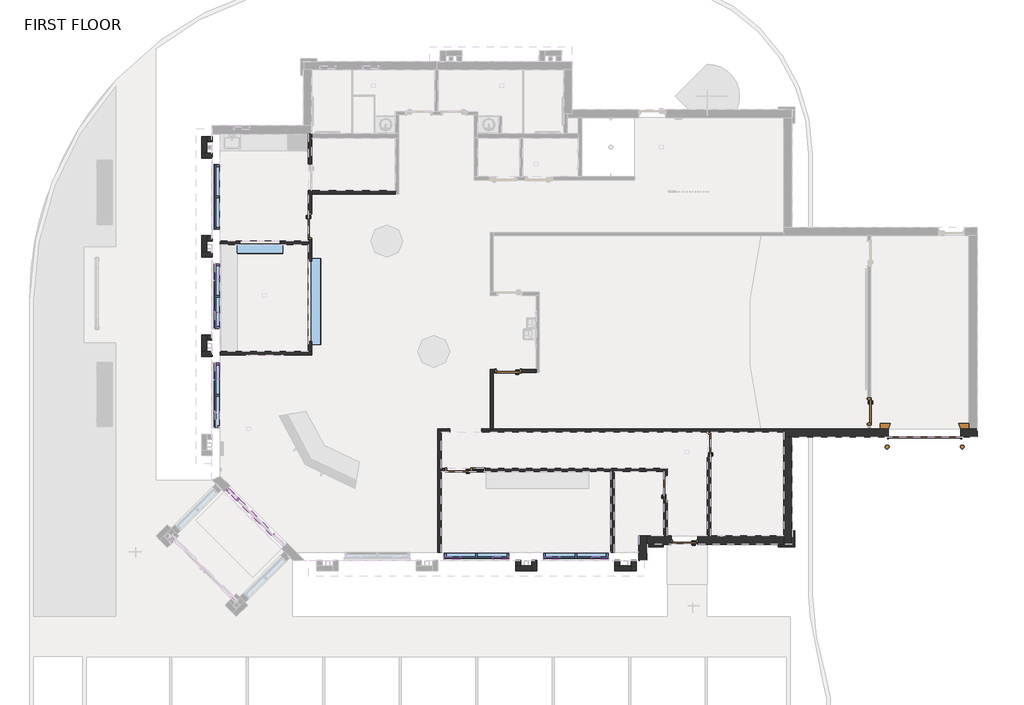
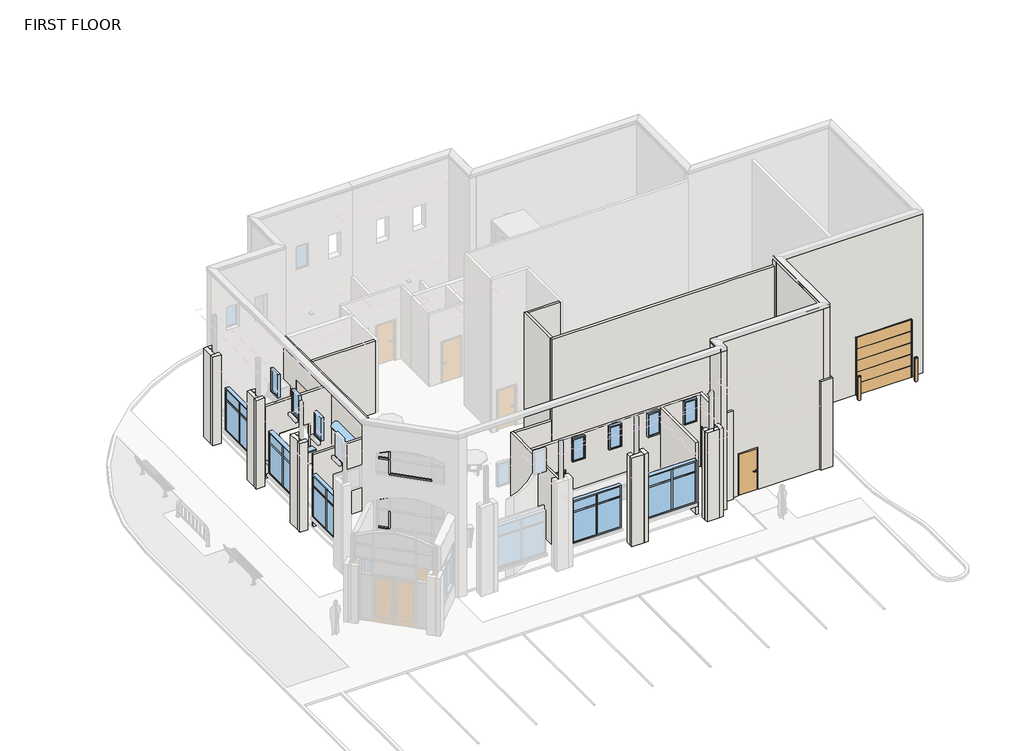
# One storey, part 3 of 7: 35 walls, 14 windows, 8 doors, 8 members.
"""IFC4 building model written with IfcOpenShell, lengths in millimetres."""

from ifc_helpers import new_model, si_unit, frame, origin, place, context, project, spatial, polyline, outline, extrude, faceted_brep, transform, mapped, element, save
from components import hm_frame_door_interior_single_4ead148d, hm_frame_door_interior_single_41877bdb, hm_frame_door_interior_single_with_sidelite_831faa12, door_ae087dad, sectional_overhead_dock_door_and_seal_3876_cbcbc84f, member_1df11e17, member_ca079636, member_016b66e3, member_3a04f99e, member_58a4a87b, member_93b63755, aluminum_exterior_window_single_3885_e2dbf674, pass_through_counter_4719_pass_through_counter_4719_2_ca190591, pass_through_counter_4719_pass_through_counter_short_b2f492ed, storefront_window_28fc684a

model = new_model("IFC4")

# Units and contexts
model_context = context("Model", 3, world=origin())
ifc_project = project(units=[si_unit("LENGTHUNIT", "METRE", prefix="MILLI")], contexts=[model_context])

# Site, building, storey
site = spatial("IfcSite", under=ifc_project)
building = spatial("IfcBuilding", under=site)
storey = spatial("IfcBuildingStorey", under=building, Name="FIRST FLOOR", Elevation=30480.0)

# Doors
placement = place(None, origin())
hm_frame_door_interior_single_shape = hm_frame_door_interior_single_4ead148d(model_context)
element("IfcDoor", 1, ObjectType="HM Frame Door - Interior Single : 36\" x 84\" x 5.75\" WD Door", at=placement, inside=storey, context=model_context, shape_type="MappedRepresentation", body=[
    mapped(hm_frame_door_interior_single_shape, transform((-13127.147753, 6404.1010405, 30480.0), x_axis=(0.0, -1.0, 0.0), y_axis=(1.0, 0.0, 0.0), z_axis=(0.0, 0.0, 1.0))),
])
element("IfcDoor", 2, ObjectType="HM Frame Door - Interior Single : 36\" x 84\" x 5.75\" WD Door", at=placement, inside=storey, context=model_context, shape_type="MappedRepresentation", body=[
    mapped(hm_frame_door_interior_single_shape, transform((1982.677247, -1911.2239595, 30480.0), x_axis=(0.0, 1.0, 0.0), y_axis=(-1.0, 0.0, 0.0), z_axis=(0.0, 0.0, 1.0))),
])
hm_frame_door_interior_single_2_shape = hm_frame_door_interior_single_41877bdb(model_context)
element("IfcDoor", 3, ObjectType="HM Frame Door - Interior Single : 36\" x 84\" x 5.75\" WD Door", at=placement, inside=storey, context=model_context, shape_type="MappedRepresentation", body=[
    mapped(hm_frame_door_interior_single_2_shape, transform((334.852247, -3508.2489595, 30480.0), x_axis=(0.0, 1.0, 0.0), y_axis=(-1.0, 0.0, 0.0), z_axis=(0.0, 0.0, 1.0))),
])
element("IfcDoor", 4, ObjectType="HM Frame Door - Interior Single : 36\" x 84\" x 5.75\" WD Door", at=placement, inside=storey, context=model_context, shape_type="MappedRepresentation", body=[
    mapped(hm_frame_door_interior_single_2_shape, transform((-5619.860253, 916.1135405, 30480.0), x_axis=(-1.0, 0.0, 0.0), y_axis=(0.0, -1.0, 0.0), z_axis=(0.0, 0.0, 1.0))),
])
element("IfcDoor", 5, ObjectType="HM Frame Door - Interior Single : 36\" x 84\" x 5.75\" WD Door", at=placement, inside=storey, context=model_context, shape_type="MappedRepresentation", body=[
    mapped(hm_frame_door_interior_single_2_shape, transform((8049.7427189, -618.9989595, 30480.0), x_axis=(0.0, -1.0, 0.0), y_axis=(1.0, 0.0, 0.0), z_axis=(0.0, 0.0, 1.0))),
])
hm_frame_door_interior_single_with_sidelite_shape = hm_frame_door_interior_single_with_sidelite_831faa12(model_context)
element("IfcDoor", 6, ObjectType="HM Frame Door - Interior Single with Sidelite : 36\" x 84\" x 5.75\" x 18\" Lite_Wood", at=placement, inside=storey, context=model_context, shape_type="MappedRepresentation", body=[
    mapped(hm_frame_door_interior_single_with_sidelite_shape, transform((-7499.460253, -2836.7364595, 30480.0), x_axis=(-1.0, 0.0, 0.0), y_axis=(0.0, -1.0, 0.0), z_axis=(0.0, 0.0, 1.0))),
])
door_shape = door_ae087dad(model_context)
element("IfcDoor", 7, ObjectType="HM_Frame_Door_-_Exterior_Single_3894 : 3'-0\" x 7'-0\" Metal_5.75\" x 4\"", at=placement, inside=storey, context=model_context, shape_type="MappedRepresentation", body=[
    mapped(door_shape, transform((1057.164747, -5495.7989595, 30480.0), x_axis=(1.0, 0.0, 0.0), y_axis=(0.0, 1.0, 0.0), z_axis=(0.0, 0.0, 1.0))),
])
sectional_overhead_dock_door_and_seal_3876_shape = sectional_overhead_dock_door_and_seal_3876_cbcbc84f(model_context)
element("IfcDoor", 8, ObjectType="Sectional_Overhead_Dock_Door_and_Seal_3876 : 9'-0\"W x 10'-0\"H", at=placement, inside=storey, context=model_context, shape_type="MappedRepresentation", body=[
    mapped(sectional_overhead_dock_door_and_seal_3876_shape, transform((10150.364747, -1431.7989595, 30480.0), x_axis=(1.0, 0.0, 0.0), y_axis=(0.0, 1.0, 0.0), z_axis=(0.0, 0.0, 1.0))),
])

# Members
member_shape = member_1df11e17(model_context)
element("IfcMember", 9, ObjectType="Rectangular Mullion : 2.5\" x 5\" rectangular", at=placement, inside=storey, context=model_context, shape_type="MappedRepresentation", body=[
    mapped(member_shape, transform((-15889.5373781, -3929.1706875, 33502.6), x_axis=(0.0, 0.0, 1.0), y_axis=(-0.707106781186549, -0.7071067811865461, 0.0), z_axis=(0.7071067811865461, -0.707106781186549, 0.0))),
])
element("IfcMember", 10, ObjectType="Rectangular Mullion : 2.5\" x 5\" rectangular", at=placement, inside=storey, context=model_context, shape_type="MappedRepresentation", body=[
    mapped(member_shape, transform((-15889.5373781, -3929.1706875, 37160.2), x_axis=(0.0, 0.0, 1.0), y_axis=(-0.7071067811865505, -0.7071067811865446, 0.0), z_axis=(0.7071067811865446, -0.7071067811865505, 0.0))),
])
member_2_shape = member_ca079636(model_context)
element("IfcMember", 11, ObjectType="Rectangular Mullion : 2.5\" x 5\" rectangular", at=placement, inside=storey, context=model_context, shape_type="MappedRepresentation", body=[
    mapped(member_2_shape, transform((-15867.0867378, -3951.6213278, 33502.6), x_axis=(0.707106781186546, -0.7071067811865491, 0.0), y_axis=(-0.7071067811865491, -0.707106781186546, 0.0), z_axis=(0.0, 0.0, -1.0))),
])
member_3_shape = member_016b66e3(model_context)
element("IfcMember", 12, ObjectType="Rectangular Mullion : 2.5\" x 5\" rectangular", at=placement, inside=storey, context=model_context, shape_type="MappedRepresentation", body=[
    mapped(member_3_shape, transform((-15867.0867378, -3951.6213278, 35206.676796), x_axis=(-0.18424092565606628, 0.1842409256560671, 0.9654587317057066), y_axis=(-0.7071067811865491, -0.707106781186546, 0.0), z_axis=(0.6826824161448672, -0.6826824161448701, 0.2605560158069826))),
])
member_4_shape = member_3a04f99e(model_context)
element("IfcMember", 13, ObjectType="Rectangular Mullion : 2.5\" x 5\" rectangular", at=placement, inside=storey, context=model_context, shape_type="MappedRepresentation", body=[
    mapped(member_4_shape, transform((-15844.6360975, -3974.0719681, 36347.4), x_axis=(0.0, 0.0, -1.0), y_axis=(-0.7071067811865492, -0.7071067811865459, 0.0), z_axis=(-0.7071067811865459, 0.7071067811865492, 0.0))),
])
member_5_shape = member_58a4a87b(model_context)
element("IfcMember", 14, ObjectType="Rectangular Mullion : 2.5\" x 5\" rectangular", at=placement, inside=storey, context=model_context, shape_type="MappedRepresentation", body=[
    mapped(member_5_shape, transform((-15867.0867378, -3951.6213278, 36347.4), x_axis=(0.7071067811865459, -0.7071067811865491, 0.0), y_axis=(-0.7071067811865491, -0.7071067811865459, 0.0), z_axis=(0.0, 0.0, -1.0))),
])
member_6_shape = member_93b63755(model_context)
element("IfcMember", 15, ObjectType="Rectangular Mullion : 2.5\" x 5\" rectangular", at=placement, inside=storey, context=model_context, shape_type="MappedRepresentation", body=[
    mapped(member_6_shape, transform((-15867.0867378, -3951.6213278, 37160.2), x_axis=(0.7071067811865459, -0.7071067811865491, 0.0), y_axis=(-0.7071067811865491, -0.7071067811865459, 0.0), z_axis=(0.0, 0.0, -1.0))),
])
element("IfcMember", 16, ObjectType="Rectangular Mullion : 2.5\" x 5\" rectangular", at=placement, inside=storey, context=model_context, shape_type="MappedRepresentation", body=[
    mapped(member_3_shape, transform((-15867.0867378, -3951.6213278, 37654.2607875), x_axis=(-0.18424092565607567, 0.18424092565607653, 0.9654587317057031), y_axis=(-0.7071067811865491, -0.7071067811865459, 0.0), z_axis=(0.6826824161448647, -0.6826824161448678, 0.26055601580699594))),
])

# Walls
element("IfcWall", 17, ObjectType="Exterior - Brick on Mtl. Stud", at=placement, inside=storey, context=model_context, shape_type="Brep", body=[
    faceted_brep([(12131.564747, -1279.3989595, 39014.4), (12131.564747, -1279.3989595, 30480.0), (11826.764747, -1279.3989595, 30480.0), (11521.964747, -1279.3989595, 30480.0), (11521.964747, -1279.3989595, 33528.0), (8778.764747, -1279.3989595, 33528.0), (8778.764747, -1279.3989595, 30480.0), (8111.6552189, -1279.3989595, 30480.0), (7987.8302189, -1279.3989595, 30480.0), (4816.364747, -1279.3989595, 30480.0), (4816.364747, -1279.3989595, 38557.2), (4816.364747, -1279.3989595, 38890.816921), (11826.764747, -1279.3989595, 38890.816921), (11829.939747, -1279.3989595, 38899.5401618), (11829.939747, -1279.3989595, 39014.4), (12131.564747, -1584.1989595, 30480.0), (12131.564747, -1584.1989595, 39014.4), (5121.164747, -1584.1989595, 39014.4), (4819.539747, -1584.1989595, 39014.4), (4819.539747, -1584.1989595, 38899.5401618), (4816.364747, -1584.1989595, 38890.816921), (4816.364747, -1584.1989595, 30480.0), (5121.164747, -1584.1989595, 30480.0), (8778.764747, -1584.1989595, 30480.0), (8778.764747, -1584.1989595, 33528.0), (11521.964747, -1584.1989595, 33528.0), (11521.964747, -1584.1989595, 30480.0), (4816.364747, -1403.2239595, 30480.0), (11829.939747, -1282.5739595, 39014.4), (4819.539747, -1282.5739595, 39014.4), (11829.939747, -1282.5739595, 38899.5401618), (4819.539747, -1282.5739595, 38899.5401618)], [[[0, 1, 2, 3, 4, 5, 6, 7, 8, 9, 10, 11, 12, 13, 14]], [[15, 16, 17, 18, 19, 20, 21, 22, 23, 24, 25, 26]], [[1, 15, 26, 3, 2]], [[21, 27, 9, 8, 7, 6, 23, 22]], [[16, 0, 14, 28, 29, 18, 17]], [[1, 0, 16, 15]], [[9, 27, 21, 20, 11, 10]], [[25, 4, 3, 26]], [[4, 25, 24, 5]], [[5, 24, 23, 6]], [[30, 28, 14, 13]], [[12, 30, 13]], [[30, 31, 29, 28]], [[31, 30, 12, 11]], [[29, 31, 19, 18]], [[31, 11, 20, 19]]]),
])
element("IfcWall", 18, ObjectType="Exterior - Brick on Mtl. Stud", at=placement, inside=storey, context=model_context, shape_type="Brep", body=[
    faceted_brep([(4816.364747, -1584.1989595, 30480.0), (4816.364747, -5343.3989595, 30480.0), (4816.364747, -5648.1989595, 30480.0), (4816.364747, -5648.1989595, 39014.4), (4816.364747, -5346.5739595, 39014.4), (4816.364747, -5346.5739595, 38899.5401618), (4816.364747, -5343.3989595, 38890.816921), (4816.364747, -1584.1989595, 38890.816921), (5121.164747, -5648.1989595, 30480.0), (5121.164747, -1584.1989595, 30480.0), (5121.164747, -1584.1989595, 39014.4), (5121.164747, -5648.1989595, 39014.4), (4819.539747, -1584.1989595, 39014.4), (4819.539747, -5346.5739595, 39014.4), (4819.539747, -1584.1989595, 38899.5401618), (4819.539747, -5346.5739595, 38899.5401618)], [[[0, 1, 2, 3, 4, 5, 6, 7]], [[8, 9, 10, 11]], [[2, 1, 0, 9, 8]], [[11, 10, 12, 13, 4, 3]], [[3, 2, 8, 11]], [[9, 0, 7, 14, 12, 10]], [[15, 13, 12, 14]], [[6, 15, 14, 7]], [[13, 15, 5, 4]], [[15, 6, 5]]]),
])
element("IfcWall", 19, ObjectType="Exterior - Brick on Mtl. Stud", at=placement, inside=storey, context=model_context, shape_type="Brep", body=[
    faceted_brep([(549.164747, -5343.3989595, 30480.0), (396.764747, -5343.3989595, 30480.0), (272.939747, -5343.3989595, 30480.0), (-365.235253, -5343.3989595, 30480.0), (-365.235253, -5343.3989595, 38890.816921), (4816.364747, -5343.3989595, 38890.816921), (4816.364747, -5343.3989595, 30480.0), (2044.589747, -5343.3989595, 30480.0), (1920.764747, -5343.3989595, 30480.0), (1565.164747, -5343.3989595, 30480.0), (1565.164747, -5343.3989595, 32715.2), (549.164747, -5343.3989595, 32715.2), (4816.364747, -5648.1989595, 39014.4), (-365.235253, -5648.1989595, 39014.4), (-365.235253, -5648.1989595, 30480.0), (549.164747, -5648.1989595, 30480.0), (549.164747, -5648.1989595, 32715.2), (1565.164747, -5648.1989595, 32715.2), (1565.164747, -5648.1989595, 30480.0), (4816.364747, -5648.1989595, 30480.0), (4816.364747, -5346.5739595, 39014.4), (-365.235253, -5346.5739595, 39014.4), (4816.364747, -5346.5739595, 38899.5401618), (-365.235253, -5346.5739595, 38899.5401618)], [[[0, 1, 2, 3, 4, 5, 6, 7, 8, 9, 10, 11]], [[12, 13, 14, 15, 16, 17, 18, 19]], [[6, 19, 18, 9, 8, 7]], [[14, 3, 2, 1, 0, 15]], [[13, 12, 20, 21]], [[12, 19, 6, 5, 22, 20]], [[3, 14, 13, 21, 23, 4]], [[16, 11, 10, 17]], [[11, 16, 15, 0]], [[17, 10, 9, 18]], [[22, 23, 21, 20]], [[23, 22, 5, 4]]]),
])
element("IfcWall", 20, ObjectType="Exterior - Brick on Mtl. Stud", at=placement, inside=storey, context=model_context, shape_type="Brep", body=[
    faceted_brep([(-670.035253, -5343.3989595, 30480.0), (-670.035253, -5952.9989595, 30480.0), (-670.035253, -6257.7989595, 30480.0), (-670.035253, -6257.7989595, 39014.4), (-670.035253, -5956.1739595, 39014.4), (-670.035253, -5956.1739595, 38899.5401618), (-670.035253, -5952.9989595, 38890.816921), (-670.035253, -5343.3989595, 38890.816921), (-670.035253, -5343.3989595, 38557.2), (-670.035253, -5343.3989595, 34594.8), (-365.235253, -6257.7989595, 30480.0), (-365.235253, -5648.1989595, 30480.0), (-365.235253, -5343.3989595, 30480.0), (-365.235253, -5343.3989595, 38890.816921), (-365.235253, -5346.5739595, 38899.5401618), (-365.235253, -5346.5739595, 39014.4), (-365.235253, -5648.1989595, 39014.4), (-365.235253, -6257.7989595, 39014.4), (-666.860253, -5346.5739595, 39014.4), (-666.860253, -5956.1739595, 39014.4), (-666.860253, -5346.5739595, 38899.5401618), (-666.860253, -5956.1739595, 38899.5401618)], [[[0, 1, 2, 3, 4, 5, 6, 7, 8, 9]], [[10, 11, 12, 13, 14, 15, 16, 17]], [[2, 1, 0, 12, 11, 10]], [[3, 17, 16, 15, 18, 19, 4]], [[12, 0, 9, 8, 7, 13]], [[3, 2, 10, 17]], [[20, 18, 15, 14]], [[7, 20, 14, 13]], [[20, 21, 19, 18]], [[21, 20, 7, 6]], [[19, 21, 5, 4]], [[21, 6, 5]]]),
])
element("IfcWall", 21, ObjectType="Generic - 4\" CMU", at=placement, inside=storey, context=model_context, shape_type="SweptSolid", body=[
    extrude(outline(polyline([(244.364747, -5749.7989595), (-365.235253, -5749.7989595), (-365.235253, -5648.1989595), (244.364747, -5648.1989595), (244.364747, -5749.7989595)])), frame((0.0, 0.0, 30480.0), z_axis=(0.0, 0.0, 1.0), x_axis=(1.0, 0.0, 0.0)), (0.0, 0.0, 1.0), 4673.6),
])
element("IfcWall", 22, ObjectType="Generic - 4\" CMU", at=placement, inside=storey, context=model_context, shape_type="Brep", body=[
    faceted_brep([(4613.164747, -5749.7989595, 30480.0), (5222.764747, -5749.7989595, 30480.0), (5222.764747, -5749.7989595, 35153.6), (4613.164747, -5749.7989595, 35153.6), (4613.164747, -5648.1989595, 30480.0), (4613.164747, -5648.1989595, 35153.6), (5121.164747, -5648.1989595, 35153.6), (5222.764747, -5648.1989595, 35153.6), (5222.764747, -5648.1989595, 30480.0), (5121.164747, -5648.1989595, 30480.0)], [[[0, 1, 2, 3]], [[4, 5, 6, 7, 8, 9]], [[1, 0, 4, 9, 8]], [[3, 2, 7, 6, 5]], [[0, 3, 5, 4]], [[2, 1, 8, 7]]]),
])
element("IfcWall", 23, ObjectType="Generic - 4\" CMU", at=placement, inside=storey, context=model_context, shape_type="SweptSolid", body=[
    extrude(outline(polyline([(5121.164747, -5648.1989595), (5121.164747, -5140.1989595), (5222.764747, -5140.1989595), (5222.764747, -5648.1989595), (5121.164747, -5648.1989595)])), frame((0.0, 0.0, 30480.0), z_axis=(0.0, 0.0, 1.0), x_axis=(1.0, 0.0, 0.0)), (0.0, 0.0, 1.0), 4673.6),
])
element("IfcWall", 24, ObjectType="Generic - 8\" Masonry", at=placement, inside=storey, context=model_context, shape_type="Brep", body=[
    faceted_brep([(-4724.530573, -6257.7989595, 30480.0), (-4724.530573, -6470.5239595, 30480.0), (-4724.530573, -6664.1989595, 30480.0), (-4724.530573, -6664.1989595, 35153.6), (-4724.530573, -6470.5239595, 35153.6), (-4724.530573, -6257.7989595, 35153.6), (-4530.855573, -6257.7989595, 30480.0), (-4530.855573, -6257.7989595, 35153.6), (-4530.855573, -6664.1989595, 35153.6), (-4530.855573, -6664.1989595, 30480.0)], [[[0, 1, 2, 3, 4, 5]], [[6, 7, 8, 9]], [[2, 1, 0, 6, 9]], [[5, 4, 3, 8, 7]], [[0, 5, 7, 6]], [[3, 2, 9, 8]]]),
])
element("IfcWall", 25, ObjectType="Generic - 8\" Masonry", at=placement, inside=storey, context=model_context, shape_type="Brep", body=[
    faceted_brep([(-4724.530573, -6470.5239595, 30480.0), (-5149.980573, -6470.5239595, 30480.0), (-5343.655573, -6470.5239595, 30480.0), (-5343.655573, -6470.5239595, 35153.6), (-5149.980573, -6470.5239595, 35153.6), (-4724.530573, -6470.5239595, 35153.6), (-4724.530573, -6664.1989595, 30480.0), (-4724.530573, -6664.1989595, 35153.6), (-5343.655573, -6664.1989595, 35153.6), (-5343.655573, -6664.1989595, 30480.0)], [[[0, 1, 2, 3, 4, 5]], [[6, 7, 8, 9]], [[2, 1, 0, 6, 9]], [[5, 4, 3, 8, 7]], [[3, 2, 9, 8]], [[0, 5, 7, 6]]]),
])
element("IfcWall", 26, ObjectType="Generic - 8\" Masonry", at=placement, inside=storey, context=model_context, shape_type="SweptSolid", body=[
    extrude(outline(polyline([(-5149.980573, -6257.7989595), (-5149.980573, -6470.5239595), (-5343.655573, -6470.5239595), (-5343.655573, -6257.7989595), (-5149.980573, -6257.7989595)])), frame((0.0, 0.0, 30480.0), z_axis=(0.0, 0.0, 1.0), x_axis=(1.0, 0.0, 0.0)), (0.0, 0.0, 1.0), 4673.6),
])
element("IfcWall", 27, ObjectType="Generic - 8\" Masonry", at=placement, inside=storey, context=model_context, shape_type="Brep", body=[
    faceted_brep([(-965.340733, -6257.7989595, 30480.0), (-965.340733, -6470.5239595, 30480.0), (-965.340733, -6664.1989595, 30480.0), (-965.340733, -6664.1989595, 35153.6), (-965.340733, -6470.5239595, 35153.6), (-965.340733, -6257.7989595, 35153.6), (-771.665733, -6257.7989595, 30480.0), (-771.665733, -6257.7989595, 35153.6), (-771.665733, -6664.1989595, 35153.6), (-771.665733, -6664.1989595, 30480.0)], [[[0, 1, 2, 3, 4, 5]], [[6, 7, 8, 9]], [[2, 1, 0, 6, 9]], [[5, 4, 3, 8, 7]], [[0, 5, 7, 6]], [[3, 2, 9, 8]]]),
])
element("IfcWall", 28, ObjectType="Generic - 8\" Masonry", at=placement, inside=storey, context=model_context, shape_type="Brep", body=[
    faceted_brep([(-965.340733, -6470.5239595, 30480.0), (-1390.790733, -6470.5239595, 30480.0), (-1584.465733, -6470.5239595, 30480.0), (-1584.465733, -6470.5239595, 35153.6), (-1390.790733, -6470.5239595, 35153.6), (-965.340733, -6470.5239595, 35153.6), (-965.340733, -6664.1989595, 30480.0), (-965.340733, -6664.1989595, 35153.6), (-1584.465733, -6664.1989595, 35153.6), (-1584.465733, -6664.1989595, 30480.0)], [[[0, 1, 2, 3, 4, 5]], [[6, 7, 8, 9]], [[2, 1, 0, 6, 9]], [[5, 4, 3, 8, 7]], [[3, 2, 9, 8]], [[0, 5, 7, 6]]]),
])
element("IfcWall", 29, ObjectType="Generic - 8\" Masonry", at=placement, inside=storey, context=model_context, shape_type="SweptSolid", body=[
    extrude(outline(polyline([(-1390.790733, -6257.7989595), (-1390.790733, -6470.5239595), (-1584.465733, -6470.5239595), (-1584.465733, -6257.7989595), (-1390.790733, -6257.7989595)])), frame((0.0, 0.0, 30480.0), z_axis=(0.0, 0.0, 1.0), x_axis=(1.0, 0.0, 0.0)), (0.0, 0.0, 1.0), 4673.6),
])
element("IfcWall", 30, ObjectType="Generic - 8\" Masonry", at=placement, inside=storey, context=model_context, shape_type="Brep", body=[
    faceted_brep([(-16824.435253, 9175.8455605, 30480.0), (-17037.160253, 9175.8455605, 30480.0), (-17230.835253, 9175.8455605, 30480.0), (-17230.835253, 9175.8455605, 35153.6), (-17037.160253, 9175.8455605, 35153.6), (-16824.435253, 9175.8455605, 35153.6), (-16824.435253, 8982.1705605, 30480.0), (-16824.435253, 8982.1705605, 35153.6), (-17230.835253, 8982.1705605, 35153.6), (-17230.835253, 8982.1705605, 30480.0)], [[[0, 1, 2, 3, 4, 5]], [[6, 7, 8, 9]], [[2, 1, 0, 6, 9]], [[5, 4, 3, 8, 7]], [[0, 5, 7, 6]], [[3, 2, 9, 8]]]),
])
element("IfcWall", 31, ObjectType="Generic - 8\" Masonry", at=placement, inside=storey, context=model_context, shape_type="Brep", body=[
    faceted_brep([(-17037.160253, 9175.8455605, 30480.0), (-17037.160253, 9601.2955605, 30480.0), (-17037.160253, 9794.9705605, 30480.0), (-17037.160253, 9794.9705605, 35153.6), (-17037.160253, 9601.2955605, 35153.6), (-17037.160253, 9175.8455605, 35153.6), (-17230.835253, 9175.8455605, 30480.0), (-17230.835253, 9175.8455605, 35153.6), (-17230.835253, 9794.9705605, 35153.6), (-17230.835253, 9794.9705605, 30480.0)], [[[0, 1, 2, 3, 4, 5]], [[6, 7, 8, 9]], [[2, 1, 0, 6, 9]], [[5, 4, 3, 8, 7]], [[3, 2, 9, 8]], [[0, 5, 7, 6]]]),
])
element("IfcWall", 32, ObjectType="Generic - 8\" Masonry", at=placement, inside=storey, context=model_context, shape_type="SweptSolid", body=[
    extrude(outline(polyline([(-16824.435253, 9601.2955605), (-17037.160253, 9601.2955605), (-17037.160253, 9794.9705605), (-16824.435253, 9794.9705605), (-16824.435253, 9601.2955605)])), frame((0.0, 0.0, 30480.0), z_axis=(0.0, 0.0, 1.0), x_axis=(1.0, 0.0, 0.0)), (0.0, 0.0, 1.0), 4673.6),
])
element("IfcWall", 33, ObjectType="Generic - 8\" Masonry", at=placement, inside=storey, context=model_context, shape_type="Brep", body=[
    faceted_brep([(-16824.435253, 5416.6557205, 30480.0), (-17037.160253, 5416.6557205, 30480.0), (-17230.835253, 5416.6557205, 30480.0), (-17230.835253, 5416.6557205, 35153.6), (-17037.160253, 5416.6557205, 35153.6), (-16824.435253, 5416.6557205, 35153.6), (-16824.435253, 5222.9807205, 30480.0), (-16824.435253, 5222.9807205, 35153.6), (-17230.835253, 5222.9807205, 35153.6), (-17230.835253, 5222.9807205, 30480.0)], [[[0, 1, 2, 3, 4, 5]], [[6, 7, 8, 9]], [[2, 1, 0, 6, 9]], [[5, 4, 3, 8, 7]], [[0, 5, 7, 6]], [[3, 2, 9, 8]]]),
])
element("IfcWall", 34, ObjectType="Generic - 8\" Masonry", at=placement, inside=storey, context=model_context, shape_type="Brep", body=[
    faceted_brep([(-17037.160253, 5416.6557205, 30480.0), (-17037.160253, 5842.1057205, 30480.0), (-17037.160253, 6035.7807205, 30480.0), (-17037.160253, 6035.7807205, 35153.6), (-17037.160253, 5842.1057205, 35153.6), (-17037.160253, 5416.6557205, 35153.6), (-17230.835253, 5416.6557205, 30480.0), (-17230.835253, 5416.6557205, 35153.6), (-17230.835253, 6035.7807205, 35153.6), (-17230.835253, 6035.7807205, 30480.0)], [[[0, 1, 2, 3, 4, 5]], [[6, 7, 8, 9]], [[2, 1, 0, 6, 9]], [[5, 4, 3, 8, 7]], [[3, 2, 9, 8]], [[0, 5, 7, 6]]]),
])
element("IfcWall", 35, ObjectType="Generic - 8\" Masonry", at=placement, inside=storey, context=model_context, shape_type="SweptSolid", body=[
    extrude(outline(polyline([(-16824.435253, 5842.1057205), (-17037.160253, 5842.1057205), (-17037.160253, 6035.7807205), (-16824.435253, 6035.7807205), (-16824.435253, 5842.1057205)])), frame((0.0, 0.0, 30480.0), z_axis=(0.0, 0.0, 1.0), x_axis=(1.0, 0.0, 0.0)), (0.0, 0.0, 1.0), 4673.6),
])
element("IfcWall", 36, ObjectType="Generic - 8\" Masonry", at=placement, inside=storey, context=model_context, shape_type="Brep", body=[
    faceted_brep([(-16824.435253, 1657.4658805, 30480.0), (-17037.160253, 1657.4658805, 30480.0), (-17230.835253, 1657.4658805, 30480.0), (-17230.835253, 1657.4658805, 35153.6), (-17037.160253, 1657.4658805, 35153.6), (-16824.435253, 1657.4658805, 35153.6), (-16824.435253, 1463.7908805, 30480.0), (-16824.435253, 1463.7908805, 35153.6), (-17230.835253, 1463.7908805, 35153.6), (-17230.835253, 1463.7908805, 30480.0)], [[[0, 1, 2, 3, 4, 5]], [[6, 7, 8, 9]], [[2, 1, 0, 6, 9]], [[5, 4, 3, 8, 7]], [[0, 5, 7, 6]], [[3, 2, 9, 8]]]),
])
element("IfcWall", 37, ObjectType="Generic - 8\" Masonry", at=placement, inside=storey, context=model_context, shape_type="Brep", body=[
    faceted_brep([(-17037.160253, 1657.4658805, 30480.0), (-17037.160253, 2082.9158805, 30480.0), (-17037.160253, 2276.5908805, 30480.0), (-17037.160253, 2276.5908805, 35153.6), (-17037.160253, 2082.9158805, 35153.6), (-17037.160253, 1657.4658805, 35153.6), (-17230.835253, 1657.4658805, 30480.0), (-17230.835253, 1657.4658805, 35153.6), (-17230.835253, 2276.5908805, 35153.6), (-17230.835253, 2276.5908805, 30480.0)], [[[0, 1, 2, 3, 4, 5]], [[6, 7, 8, 9]], [[2, 1, 0, 6, 9]], [[5, 4, 3, 8, 7]], [[3, 2, 9, 8]], [[0, 5, 7, 6]]]),
])
element("IfcWall", 38, ObjectType="Generic - 8\" Masonry", at=placement, inside=storey, context=model_context, shape_type="SweptSolid", body=[
    extrude(outline(polyline([(-16824.435253, 2082.9158805), (-17037.160253, 2082.9158805), (-17037.160253, 2276.5908805), (-16824.435253, 2276.5908805), (-16824.435253, 2082.9158805)])), frame((0.0, 0.0, 30480.0), z_axis=(0.0, 0.0, 1.0), x_axis=(1.0, 0.0, 0.0)), (0.0, 0.0, 1.0), 4673.6),
])
element("IfcWall", 39, ObjectType="Interior - 4 7/8\" Partition (1-hr)", at=placement, inside=storey, context=model_context, shape_type="Brep", body=[
    faceted_brep([(396.764747, -3000.2489595, 32664.4), (396.764747, -3000.2489595, 30480.0), (396.764747, -2774.8239595, 30480.0), (396.764747, -2774.8239595, 34290.0), (396.764747, -5343.3989595, 34290.0), (396.764747, -5343.3989595, 30480.0), (396.764747, -4016.2489595, 30480.0), (396.764747, -4016.2489595, 32664.4), (272.939747, -2774.8239595, 30480.0), (272.939747, -2898.6489595, 30480.0), (272.939747, -3000.2489595, 30480.0), (272.939747, -3000.2489595, 32664.4), (272.939747, -4016.2489595, 32664.4), (272.939747, -4016.2489595, 30480.0), (272.939747, -5343.3989595, 30480.0), (272.939747, -5343.3989595, 34290.0), (272.939747, -2898.6489595, 34290.0), (272.939747, -2774.8239595, 34290.0)], [[[0, 1, 2, 3, 4, 5, 6, 7]], [[8, 9, 10, 11, 12, 13, 14, 15, 16, 17]], [[2, 1, 10, 9, 8]], [[6, 5, 14, 13]], [[4, 3, 17, 16, 15]], [[5, 4, 15, 14]], [[3, 2, 8, 17]], [[12, 11, 0, 7]], [[13, 12, 7, 6]], [[11, 10, 1, 0]]]),
])
element("IfcWall", 40, ObjectType="Interior - 4 7/8\" Partition (1-hr)", at=placement, inside=storey, context=model_context, shape_type="Brep", body=[
    faceted_brep([(-8159.860253, -5952.9989595, 30480.0), (-8159.860253, -2898.6489595, 30480.0), (-8159.860253, -2774.8239595, 30480.0), (-8159.860253, -1403.2239595, 30480.0), (-8159.860253, -1279.3989595, 30480.0), (-8159.860253, -1279.3989595, 34290.0), (-8159.860253, -1403.2239595, 34290.0), (-8159.860253, -2774.8239595, 34290.0), (-8159.860253, -2898.6489595, 34290.0), (-8159.860253, -5952.9989595, 34290.0), (-8283.685253, -5952.9989595, 30480.0), (-8283.685253, -5952.9989595, 34290.0), (-8283.685253, -1279.3989595, 34290.0), (-8283.685253, -1279.3989595, 30480.0), (-8283.685253, -3333.5095722, 30480.0), (-8283.685253, -3649.6767519, 30480.0)], [[[0, 1, 2, 3, 4, 5, 6, 7, 8, 9]], [[10, 11, 12, 13, 14, 15]], [[4, 3, 2, 1, 0, 10, 15, 14, 13]], [[9, 8, 7, 6, 5, 12, 11]], [[5, 4, 13, 12]], [[0, 9, 11, 10]]]),
])
element("IfcWall", 41, ObjectType="Interior - 4 7/8\" Partition (1-hr)", at=placement, inside=storey, context=model_context, shape_type="SweptSolid", body=[
    extrude(outline(polyline([(-5343.3989595, 34290.0), (-1403.2239595, 34290.0), (-1403.2239595, 32664.4), (-2419.2239595, 32664.4), (-2419.2239595, 30480.0), (-5343.3989595, 30480.0), (-5343.3989595, 34290.0)])), frame((1920.764747, 0.0, 0.0), z_axis=(1.0, 0.0, 0.0), x_axis=(0.0, 1.0, 0.0)), (0.0, 0.0, 1.0), 123.825),
])
element("IfcWall", 42, ObjectType="Interior - 4 7/8\" Partition (1-hr)", at=placement, inside=storey, context=model_context, shape_type="SweptSolid", body=[
    extrude(outline(polyline([(30480.0, -16519.635253), (30480.0, -13189.060253), (34290.0, -13189.060253), (34290.0, -16519.635253), (30480.0, -16519.635253)]), holes=[polyline([(32613.6, -14259.035253), (31394.4, -14259.035253), (31394.4, -15783.035253), (32613.6, -15783.035253), (32613.6, -14259.035253)])]), frame((0.0, 5708.7760405, 0.0), z_axis=(0.0, 1.0, 0.0), x_axis=(0.0, 0.0, 1.0)), (0.0, 0.0, 1.0), 123.825),
])
element("IfcWall", 43, ObjectType="Interior - 4 7/8\" Partition (1-hr)", at=placement, inside=storey, context=model_context, shape_type="Brep", body=[
    faceted_brep([(-16519.635253, 1520.9510405, 30480.0), (-13065.235253, 1520.9510405, 30480.0), (-13065.235253, 1520.9510405, 34290.0), (-16519.635253, 1520.9510405, 34290.0), (-16519.635253, 1644.7760405, 30480.0), (-16519.635253, 1644.7760405, 34290.0), (-13189.060253, 1644.7760405, 34290.0), (-13065.235253, 1644.7760405, 34290.0), (-13065.235253, 1644.7760405, 30480.0), (-13189.060253, 1644.7760405, 30480.0)], [[[0, 1, 2, 3]], [[4, 5, 6, 7, 8, 9]], [[1, 0, 4, 9, 8]], [[3, 2, 7, 6, 5]], [[2, 1, 8, 7]], [[0, 3, 5, 4]]]),
])
element("IfcWall", 44, ObjectType="Interior - 4 7/8\" Partition (1-hr)", at=placement, inside=storey, context=model_context, shape_type="Brep", body=[
    faceted_brep([(-13189.060253, 7740.7760405, 32664.4), (-13189.060253, 7740.7760405, 30480.0), (-13189.060253, 6912.1010405, 30480.0), (-13189.060253, 6912.1010405, 32664.4), (-13189.060253, 5896.1010405, 32664.4), (-13189.060253, 5896.1010405, 30480.0), (-13189.060253, 5832.6010405, 30480.0), (-13189.060253, 5708.7760405, 30480.0), (-13189.060253, 1644.7760405, 30480.0), (-13189.060253, 1644.7760405, 34290.0), (-13189.060253, 5708.7760405, 34290.0), (-13189.060253, 5832.6010405, 34290.0), (-13189.060253, 9896.6010405, 34290.0), (-13189.060253, 9896.6010405, 30480.0), (-13189.060253, 8756.7760405, 30480.0), (-13189.060253, 8756.7760405, 32664.4), (-13189.060253, 5073.7760405, 32613.6), (-13189.060253, 2025.7760405, 32613.6), (-13189.060253, 2025.7760405, 31394.4), (-13189.060253, 5073.7760405, 31394.4), (-13065.235253, 6912.1010405, 30480.0), (-13065.235253, 7616.9510405, 30480.0), (-13065.235253, 7740.7760405, 30480.0), (-13065.235253, 7740.7760405, 32664.4), (-13065.235253, 8756.7760405, 32664.4), (-13065.235253, 8756.7760405, 30480.0), (-13065.235253, 9728.3260405, 30480.0), (-13065.235253, 9896.6010405, 30480.0), (-13065.235253, 9896.6010405, 34290.0), (-13065.235253, 9728.3260405, 34290.0), (-13065.235253, 7740.7760405, 34290.0), (-13065.235253, 7616.9510405, 34290.0), (-13065.235253, 1644.7760405, 34290.0), (-13065.235253, 1644.7760405, 30480.0), (-13065.235253, 5896.1010405, 30480.0), (-13065.235253, 5896.1010405, 32664.4), (-13065.235253, 6912.1010405, 32664.4), (-13065.235253, 5073.7760405, 32613.6), (-13065.235253, 5073.7760405, 31394.4), (-13065.235253, 2025.7760405, 31394.4), (-13065.235253, 2025.7760405, 32613.6)], [[[0, 1, 2, 3, 4, 5, 6, 7, 8, 9, 10, 11, 12, 13, 14, 15], [16, 17, 18, 19]], [[20, 21, 22, 23, 24, 25, 26, 27, 28, 29, 30, 31, 32, 33, 34, 35, 36], [37, 38, 39, 40]], [[8, 7, 6, 5, 34, 33]], [[2, 1, 22, 21, 20]], [[14, 13, 27, 26, 25]], [[12, 11, 10, 9, 32, 31, 30, 29, 28]], [[13, 12, 28, 27]], [[9, 8, 33, 32]], [[36, 35, 4, 3]], [[20, 36, 3, 2]], [[35, 34, 5, 4]], [[24, 23, 0, 15]], [[25, 24, 15, 14]], [[23, 22, 1, 0]], [[38, 37, 16, 19]], [[39, 38, 19, 18]], [[40, 39, 18, 17]], [[37, 40, 17, 16]]]),
])
element("IfcWall", 45, ObjectType="Interior - 4 7/8\" Partition (1-hr)", at=placement, inside=storey, context=model_context, shape_type="SweptSolid", body=[
    extrude(outline(polyline([(-1613.035653, -2898.6489595), (-1613.035653, -5952.9989595), (-1736.860653, -5952.9989595), (-1736.860653, -2898.6489595), (-1613.035653, -2898.6489595)])), frame((0.0, 0.0, 30480.0), z_axis=(0.0, 0.0, 1.0), x_axis=(1.0, 0.0, 0.0)), (0.0, 0.0, 1.0), 3810.0),
])
element("IfcWall", 46, ObjectType="Interior - 4 7/8\" Partition (1-hr)", at=placement, inside=storey, context=model_context, shape_type="Brep", body=[
    faceted_brep([(-8159.860253, -2898.6489595, 30480.0), (-8007.460253, -2898.6489595, 30480.0), (-8007.460253, -2898.6489595, 32664.4), (-6483.460253, -2898.6489595, 32664.4), (-6483.460253, -2898.6489595, 30480.0), (-1736.860653, -2898.6489595, 30480.0), (-1613.035653, -2898.6489595, 30480.0), (272.939747, -2898.6489595, 30480.0), (272.939747, -2898.6489595, 34290.0), (-1613.035653, -2898.6489595, 34290.0), (-1736.860653, -2898.6489595, 34290.0), (-8159.860253, -2898.6489595, 34290.0), (-8007.460253, -2774.8239595, 32664.4), (-8007.460253, -2774.8239595, 30480.0), (-8159.860253, -2774.8239595, 30480.0), (-8159.860253, -2774.8239595, 34290.0), (272.939747, -2774.8239595, 34290.0), (272.939747, -2774.8239595, 30480.0), (-6483.460253, -2774.8239595, 30480.0), (-6483.460253, -2774.8239595, 32664.4)], [[[0, 1, 2, 3, 4, 5, 6, 7, 8, 9, 10, 11]], [[12, 13, 14, 15, 16, 17, 18, 19]], [[14, 13, 1, 0]], [[18, 17, 7, 6, 5, 4]], [[11, 10, 9, 8, 16, 15]], [[0, 11, 15, 14]], [[8, 7, 17, 16]], [[3, 2, 12, 19]], [[4, 3, 19, 18]], [[2, 1, 13, 12]]]),
])
element("IfcWall", 47, ObjectType="Interior - 4 7/8\" Partition (1-hr)", at=placement, inside=storey, context=model_context, shape_type="Brep", body=[
    faceted_brep([(-9890.235253, 7740.7760405, 30480.0), (-13065.235253, 7740.7760405, 30480.0), (-13065.235253, 7740.7760405, 32664.4), (-13065.235253, 7740.7760405, 34290.0), (-9890.235253, 7740.7760405, 34290.0), (-9890.235253, 7616.9510405, 30480.0), (-9890.235253, 7616.9510405, 34290.0), (-13065.235253, 7616.9510405, 34290.0), (-13065.235253, 7616.9510405, 30480.0)], [[[0, 1, 2, 3, 4]], [[5, 6, 7, 8]], [[1, 0, 5, 8]], [[4, 3, 7, 6]], [[3, 2, 1, 8, 7]], [[0, 4, 6, 5]]]),
])
element("IfcWall", 48, ObjectType="Interior - 4 7/8\" Partition (1-hr)", at=placement, inside=storey, context=model_context, shape_type="Brep", body=[
    faceted_brep([(-6178.660253, -1279.3989595, 30480.0), (-6178.660253, 854.2010405, 30480.0), (-6178.660253, 978.0260405, 30480.0), (-6178.660253, 978.0260405, 38557.2), (-6178.660253, 854.2010405, 38557.2), (-6178.660253, -1279.3989595, 38557.2), (-6302.485253, -1279.3989595, 30480.0), (-6302.485253, -1279.3989595, 38557.2), (-6302.485253, 978.0260405, 38557.2), (-6302.485253, 978.0260405, 30480.0)], [[[0, 1, 2, 3, 4, 5]], [[6, 7, 8, 9]], [[2, 1, 0, 6, 9]], [[5, 4, 3, 8, 7]], [[3, 2, 9, 8]], [[0, 5, 7, 6]]]),
])
element("IfcWall", 49, ObjectType="Interior - 4 7/8\" Partition (1-hr)", at=placement, inside=storey, context=model_context, shape_type="SweptSolid", body=[
    extrude(outline(polyline([(30480.0, -6178.660253), (30480.0, -6127.860253), (32664.4, -6127.860253), (32664.4, -5111.860253), (30480.0, -5111.860253), (30480.0, -4564.172753), (38557.2, -4564.172753), (38557.2, -6178.660253), (30480.0, -6178.660253)])), frame((0.0, 854.2010405, 0.0), z_axis=(0.0, 1.0, 0.0), x_axis=(0.0, 0.0, 1.0)), (0.0, 0.0, 1.0), 123.825),
])
element("IfcWall", 50, ObjectType="Interior - 4 7/8\" Partition (1-hr)", at=placement, inside=storey, context=model_context, shape_type="SweptSolid", body=[
    extrude(outline(polyline([(30480.0, -6305.660253), (34290.0, -6305.660253), (34290.0, -8159.860253), (30480.0, -8159.860253), (30480.0, -7840.772753), (32613.6, -7840.772753), (32613.6, -6621.572753), (30480.0, -6621.572753), (30480.0, -6305.660253)])), frame((0.0, -1403.2239595, 0.0), z_axis=(0.0, 1.0, 0.0), x_axis=(0.0, 0.0, 1.0)), (0.0, 0.0, 1.0), 123.825),
])
element("IfcWall", 51, ObjectType="Interior - 4 7/8\" Partition (1-hr)", at=placement, inside=storey, context=model_context, shape_type="Brep", body=[
    faceted_brep([(-6305.660253, -1403.2239595, 30480.0), (4816.364747, -1403.2239595, 30480.0), (4816.364747, -1403.2239595, 38557.2), (2501.789747, -1403.2239595, 38557.2), (2377.964747, -1403.2239595, 38557.2), (-6305.660253, -1403.2239595, 38557.2), (-6305.660253, -1403.2239595, 34290.0), (-6305.660253, -1279.3989595, 30480.0), (-6305.660253, -1279.3989595, 34290.0), (-6305.660253, -1279.3989595, 38557.2), (-6302.485253, -1279.3989595, 38557.2), (-6178.660253, -1279.3989595, 38557.2), (4816.364747, -1279.3989595, 38557.2), (4816.364747, -1279.3989595, 30480.0), (-6178.660253, -1279.3989595, 30480.0), (-6302.485253, -1279.3989595, 30480.0)], [[[0, 1, 2, 3, 4, 5, 6]], [[7, 8, 9, 10, 11, 12, 13, 14, 15]], [[1, 0, 7, 15, 14, 13]], [[5, 4, 3, 2, 12, 11, 10, 9]], [[0, 6, 5, 9, 8, 7]], [[2, 1, 13, 12]]]),
])

# Windows
aluminum_exterior_window_single_3885_shape = aluminum_exterior_window_single_3885_e2dbf674(model_context)
element("IfcWindow", 52, ObjectType="Aluminum_Exterior_Window_-_Single_3885 : 24\"W. x 48\"H.", at=placement, inside=storey, context=model_context, shape_type="MappedRepresentation", body=[
    mapped(aluminum_exterior_window_single_3885_shape, transform((-16698.5927777, 1057.3959605, 34594.8), x_axis=(0.0, -1.0, 0.0), y_axis=(1.0, 0.0, 0.0), z_axis=(0.0, 0.0, 1.0))),
])
element("IfcWindow", 53, ObjectType="Aluminum_Exterior_Window_-_Single_3885 : 24\"W. x 48\"H.", at=placement, inside=storey, context=model_context, shape_type="MappedRepresentation", body=[
    mapped(aluminum_exterior_window_single_3885_shape, transform((-16698.5927777, 2987.7858005, 34594.8), x_axis=(0.0, -1.0, 0.0), y_axis=(1.0, 0.0, 0.0), z_axis=(0.0, 0.0, 1.0))),
])
element("IfcWindow", 54, ObjectType="Aluminum_Exterior_Window_-_Single_3885 : 24\"W. x 48\"H.", at=placement, inside=storey, context=model_context, shape_type="MappedRepresentation", body=[
    mapped(aluminum_exterior_window_single_3885_shape, transform((-16698.5927777, 4816.5858005, 34594.8), x_axis=(0.0, -1.0, 0.0), y_axis=(1.0, 0.0, 0.0), z_axis=(0.0, 0.0, 1.0))),
])
element("IfcWindow", 55, ObjectType="Aluminum_Exterior_Window_-_Single_3885 : 24\"W. x 48\"H.", at=placement, inside=storey, context=model_context, shape_type="MappedRepresentation", body=[
    mapped(aluminum_exterior_window_single_3885_shape, transform((-7578.845413, -6078.8414348, 34594.8), x_axis=(-1.0, 0.0, 0.0), y_axis=(0.0, -1.0, 0.0), z_axis=(0.0, 0.0, 1.0))),
])
element("IfcWindow", 56, ObjectType="Aluminum_Exterior_Window_-_Single_3885 : 24\"W. x 48\"H.", at=placement, inside=storey, context=model_context, shape_type="MappedRepresentation", body=[
    mapped(aluminum_exterior_window_single_3885_shape, transform((-5750.045413, -6078.8414348, 34594.8), x_axis=(-1.0, 0.0, 0.0), y_axis=(0.0, -1.0, 0.0), z_axis=(0.0, 0.0, 1.0))),
])
element("IfcWindow", 57, ObjectType="Aluminum_Exterior_Window_-_Single_3885 : 24\"W. x 48\"H.", at=placement, inside=storey, context=model_context, shape_type="MappedRepresentation", body=[
    mapped(aluminum_exterior_window_single_3885_shape, transform((-3819.655573, -6078.8414348, 34594.8), x_axis=(-1.0, 0.0, 0.0), y_axis=(0.0, -1.0, 0.0), z_axis=(0.0, 0.0, 1.0))),
])
element("IfcWindow", 58, ObjectType="Aluminum_Exterior_Window_-_Single_3885 : 24\"W. x 48\"H.", at=placement, inside=storey, context=model_context, shape_type="MappedRepresentation", body=[
    mapped(aluminum_exterior_window_single_3885_shape, transform((-1990.855573, -6078.8414348, 34594.8), x_axis=(-1.0, 0.0, 0.0), y_axis=(0.0, -1.0, 0.0), z_axis=(0.0, 0.0, 1.0))),
])
pass_through_counter_4719_pass_through_counter_4719_2_shape = pass_through_counter_4719_pass_through_counter_4719_2_ca190591(model_context)
element("IfcWindow", 59, ObjectType="Pass-Through_Counter_4719 : Pass-Through_Counter_4719 2", at=placement, inside=storey, context=model_context, shape_type="MappedRepresentation", body=[
    mapped(pass_through_counter_4719_pass_through_counter_4719_2_shape, transform((-13127.147753, 4311.7760405, 30480.0), x_axis=(0.0, 1.0, 0.0), y_axis=(-1.0, 0.0, 0.0), z_axis=(0.0, 0.0, 1.0))),
])
pass_through_counter_4719_pass_through_counter_short_shape = pass_through_counter_4719_pass_through_counter_short_b2f492ed(model_context)
element("IfcWindow", 60, ObjectType="Pass-Through_Counter_4719 : Pass-Through_Counter_short", at=placement, inside=storey, context=model_context, shape_type="MappedRepresentation", body=[
    mapped(pass_through_counter_4719_pass_through_counter_short_shape, transform((-15021.035253, 5770.6885405, 30480.0), x_axis=(1.0, 0.0, 0.0), y_axis=(0.0, 1.0, 0.0), z_axis=(0.0, 0.0, 1.0))),
])
storefront_window_shape = storefront_window_28fc684a(model_context)
element("IfcWindow", 61, ObjectType="Storefront Window : 8-0\"'x7'-4\"", at=placement, inside=storey, context=model_context, shape_type="MappedRepresentation", body=[
    mapped(storefront_window_shape, transform((-16633.935253, 426.0742226, 30480.0), x_axis=(0.0, 1.0, 0.0), y_axis=(-1.0, 0.0, 0.0), z_axis=(0.0, 0.0, 1.0))),
])
element("IfcWindow", 62, ObjectType="Storefront Window : 8-0\"'x7'-4\"", at=placement, inside=storey, context=model_context, shape_type="MappedRepresentation", body=[
    mapped(storefront_window_shape, transform((-16633.935253, 4185.2640626, 30480.0), x_axis=(0.0, 1.0, 0.0), y_axis=(-1.0, 0.0, 0.0), z_axis=(0.0, 0.0, 1.0))),
])
element("IfcWindow", 63, ObjectType="Storefront Window : 8-0\"'x7'-4\"", at=placement, inside=storey, context=model_context, shape_type="MappedRepresentation", body=[
    mapped(storefront_window_shape, transform((-16633.935253, 7944.4539026, 30480.0), x_axis=(0.0, 1.0, 0.0), y_axis=(-1.0, 0.0, 0.0), z_axis=(0.0, 0.0, 1.0))),
])
element("IfcWindow", 64, ObjectType="Storefront Window : 8-0\"'x7'-4\"", at=placement, inside=storey, context=model_context, shape_type="MappedRepresentation", body=[
    mapped(storefront_window_shape, transform((-7252.3236751, -6067.2989595, 30480.0), x_axis=(-1.0, 0.0, 0.0), y_axis=(0.0, -1.0, 0.0), z_axis=(0.0, 0.0, 1.0))),
])
element("IfcWindow", 65, ObjectType="Storefront Window : 8-0\"'x7'-4\"", at=placement, inside=storey, context=model_context, shape_type="MappedRepresentation", body=[
    mapped(storefront_window_shape, transform((-3493.1338351, -6067.2989595, 30480.0), x_axis=(-1.0, 0.0, 0.0), y_axis=(0.0, -1.0, 0.0), z_axis=(0.0, 0.0, 1.0))),
])

save(model, "model.ifc")
